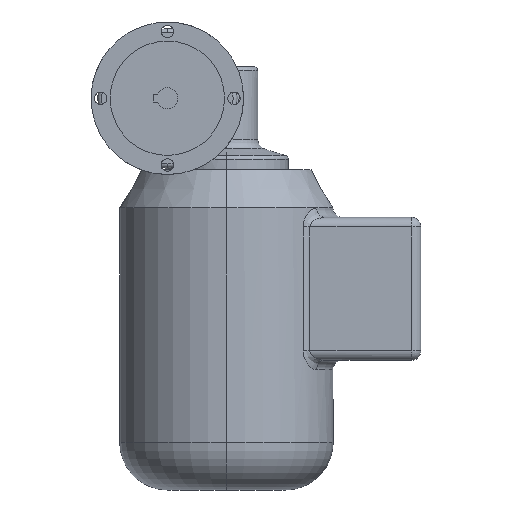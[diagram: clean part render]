
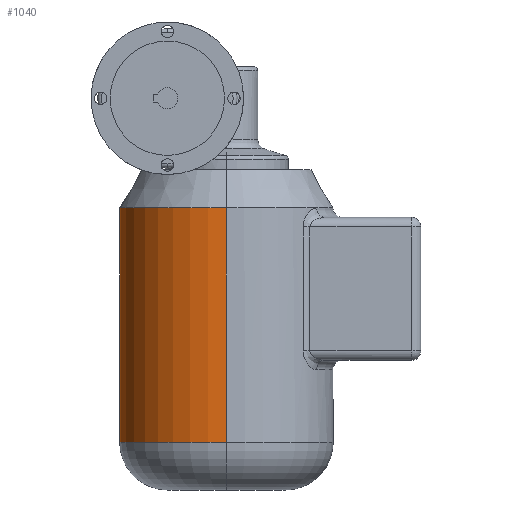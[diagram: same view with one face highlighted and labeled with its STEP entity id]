
A CAD part, left-side view. The second image highlights one B-rep face of the part: STEP entity #1040.
In plain terms, the highlighted cylindrical face has radius 56 mm (diameter 112 mm), a partial arc.
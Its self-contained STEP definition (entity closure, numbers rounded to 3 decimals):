
#1003 = VERTEX_POINT ( 'NONE', #3909 ) ;
#1035 = EDGE_CURVE ( 'NONE', #1069, #1092, #3995, .T. ) ;
#1036 = ORIENTED_EDGE ( 'NONE', *, *, #1035, .T. ) ;
#1037 = EDGE_LOOP ( 'NONE', ( #1038, #1039, #1036, #1060 ) ) ;
#1038 = ORIENTED_EDGE ( 'NONE', *, *, #1072, .F. ) ;
#1039 = ORIENTED_EDGE ( 'NONE', *, *, #1041, .T. ) ;
#1040 = ADVANCED_FACE ( 'NONE', ( #3996 ), #3998, .T. ) ;
#1041 = EDGE_CURVE ( 'NONE', #1003, #1069, #3987, .T. ) ;
#1044 = EDGE_CURVE ( 'NONE', #1092, #1091, #3993, .T. ) ;
#1060 = ORIENTED_EDGE ( 'NONE', *, *, #1044, .T. ) ;
#1069 = VERTEX_POINT ( 'NONE', #4061 ) ;
#1072 = EDGE_CURVE ( 'NONE', #1003, #1091, #4133, .T. ) ;
#1091 = VERTEX_POINT ( 'NONE', #4171 ) ;
#1092 = VERTEX_POINT ( 'NONE', #4170 ) ;
#3909 = CARTESIAN_POINT ( 'NONE',  ( 0., 57.107, -143. ) ) ;
#3946 = CARTESIAN_POINT ( 'NONE',  ( 0., 1.107, -143. ) ) ;
#3950 = CARTESIAN_POINT ( 'NONE',  ( 0., 1.107, -168. ) ) ;
#3980 = AXIS2_PLACEMENT_3D ( 'NONE', #3984, #3988, #4042 ) ;
#3981 = DIRECTION ( 'NONE',  ( 0., -1., 0. ) ) ;
#3982 = AXIS2_PLACEMENT_3D ( 'NONE', #3946, #3989, #3981 ) ;
#3984 = CARTESIAN_POINT ( 'NONE',  ( 0., 1.107, -20. ) ) ;
#3985 = DIRECTION ( 'NONE',  ( 0., -1., 0. ) ) ;
#3986 = DIRECTION ( 'NONE',  ( 0., 0., 1. ) ) ;
#3987 = CIRCLE ( 'NONE', #3982, 56. ) ;
#3988 = DIRECTION ( 'NONE',  ( 0., 0., -1. ) ) ;
#3989 = DIRECTION ( 'NONE',  ( 0., 0., 1. ) ) ;
#3990 = DIRECTION ( 'NONE',  ( 0., 0., 1. ) ) ;
#3991 = VECTOR ( 'NONE', #3990, 1000. ) ;
#3992 = CARTESIAN_POINT ( 'NONE',  ( 0., -54.893, -168. ) ) ;
#3993 = CIRCLE ( 'NONE', #3980, 56. ) ;
#3995 = LINE ( 'NONE', #3992, #3991 ) ;
#3996 = FACE_OUTER_BOUND ( 'NONE', #1037, .T. ) ;
#3997 = AXIS2_PLACEMENT_3D ( 'NONE', #3950, #3986, #3985 ) ;
#3998 = CYLINDRICAL_SURFACE ( 'NONE', #3997, 56. ) ;
#4042 = DIRECTION ( 'NONE',  ( 0., -1., 0. ) ) ;
#4061 = CARTESIAN_POINT ( 'NONE',  ( 0., -54.893, -143. ) ) ;
#4126 = DIRECTION ( 'NONE',  ( 0., 0., 1. ) ) ;
#4127 = VECTOR ( 'NONE', #4126, 1000. ) ;
#4132 = CARTESIAN_POINT ( 'NONE',  ( 0., 57.107, -168. ) ) ;
#4133 = LINE ( 'NONE', #4132, #4127 ) ;
#4170 = CARTESIAN_POINT ( 'NONE',  ( 0., -54.893, -20. ) ) ;
#4171 = CARTESIAN_POINT ( 'NONE',  ( 0., 57.107, -20. ) ) ;
